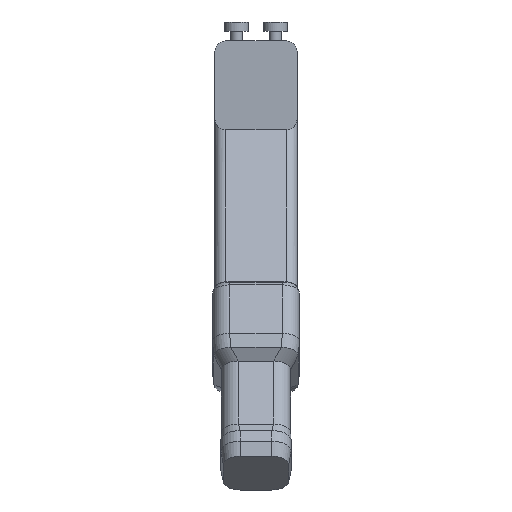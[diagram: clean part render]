
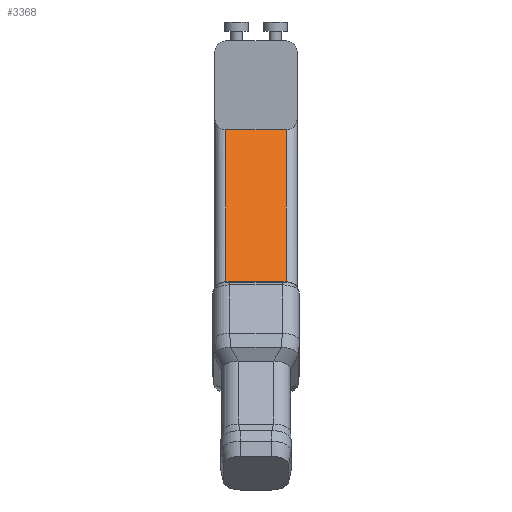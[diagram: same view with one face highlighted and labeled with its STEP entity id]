
A CAD part, left-side view. The second image highlights one B-rep face of the part: STEP entity #3368.
In plain terms, the highlighted planar face has unit normal (-0.867, 0, 0.499).
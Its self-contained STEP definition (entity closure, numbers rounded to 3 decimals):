
#477 = CYLINDRICAL_SURFACE('',#478,4.5);
#478 = AXIS2_PLACEMENT_3D('',#479,#480,#481);
#479 = CARTESIAN_POINT('',(-134.4,-12.45,-15.));
#480 = DIRECTION('',(1.,0.,0.));
#481 = DIRECTION('',(0.,-1.,0.));
#505 = PLANE('',#506);
#506 = AXIS2_PLACEMENT_3D('',#507,#508,#509);
#507 = CARTESIAN_POINT('',(-134.4,-16.95,-19.5));
#508 = DIRECTION('',(0.,0.,1.));
#509 = DIRECTION('',(1.,0.,0.));
#538 = CYLINDRICAL_SURFACE('',#539,4.5);
#539 = AXIS2_PLACEMENT_3D('',#540,#541,#542);
#540 = CARTESIAN_POINT('',(-134.4,12.45,-15.));
#541 = DIRECTION('',(1.,0.,0.));
#542 = DIRECTION('',(-0.,1.,0.));
#1155 = CYLINDRICAL_SURFACE('',#1156,4.5);
#1156 = AXIS2_PLACEMENT_3D('',#1157,#1158,#1159);
#1157 = CARTESIAN_POINT('',(-67.456,-12.5,4.566));
#1158 = DIRECTION('',(-0.499,0.,-0.867));
#1159 = DIRECTION('',(-0.,-1.,0.));
#1309 = VERTEX_POINT('',#1310);
#1310 = CARTESIAN_POINT('',(-86.492,-12.45,-19.5));
#1331 = EDGE_CURVE('',#1332,#1309,#1334,.T.);
#1332 = VERTEX_POINT('',#1333);
#1333 = CARTESIAN_POINT('',(-86.492,-12.5,-19.5));
#1334 = SURFACE_CURVE('',#1335,(#1340,#1351),.PCURVE_S1.);
#1335 = ELLIPSE('',#1336,5.191,4.5);
#1336 = AXIS2_PLACEMENT_3D('',#1337,#1338,#1339);
#1337 = CARTESIAN_POINT('',(-83.903,-12.45,-15.));
#1338 = DIRECTION('',(0.867,0.,-0.499));
#1339 = DIRECTION('',(0.499,0.,0.867));
#1340 = PCURVE('',#477,#1341);
#1341 = DEFINITIONAL_REPRESENTATION('',(#1342),#1350);
#1342 = B_SPLINE_CURVE_WITH_KNOTS('',6,(#1343,#1344,#1345,#1346,#1347,
    #1348,#1349),.UNSPECIFIED.,.F.,.F.,(7,7),(2.539,
    3.142),.PIECEWISE_BEZIER_KNOTS.);
#1343 = CARTESIAN_POINT('',(0.968,48.364));
#1344 = CARTESIAN_POINT('',(1.069,48.217));
#1345 = CARTESIAN_POINT('',(1.169,48.095));
#1346 = CARTESIAN_POINT('',(1.27,48.002));
#1347 = CARTESIAN_POINT('',(1.37,47.939));
#1348 = CARTESIAN_POINT('',(1.47,47.908));
#1349 = CARTESIAN_POINT('',(1.571,47.908));
#1350 = ( GEOMETRIC_REPRESENTATION_CONTEXT(2) 
PARAMETRIC_REPRESENTATION_CONTEXT() REPRESENTATION_CONTEXT('2D SPACE',''
  ) );
#1351 = PCURVE('',#1352,#1357);
#1352 = PLANE('',#1353);
#1353 = AXIS2_PLACEMENT_3D('',#1354,#1355,#1356);
#1354 = CARTESIAN_POINT('',(-71.357,-17.,6.81));
#1355 = DIRECTION('',(0.867,0.,-0.499));
#1356 = DIRECTION('',(0.,1.,0.));
#1357 = DEFINITIONAL_REPRESENTATION('',(#1358),#1362);
#1358 = ELLIPSE('',#1359,5.191,4.5);
#1359 = AXIS2_PLACEMENT_2D('',#1360,#1361);
#1360 = CARTESIAN_POINT('',(4.55,-25.162));
#1361 = DIRECTION('',(0.,1.));
#1362 = ( GEOMETRIC_REPRESENTATION_CONTEXT(2) 
PARAMETRIC_REPRESENTATION_CONTEXT() REPRESENTATION_CONTEXT('2D SPACE',''
  ) );
#1555 = EDGE_CURVE('',#1309,#1556,#1558,.T.);
#1556 = VERTEX_POINT('',#1557);
#1557 = CARTESIAN_POINT('',(-86.492,12.45,-19.5));
#1558 = SURFACE_CURVE('',#1559,(#1563,#1569),.PCURVE_S1.);
#1559 = LINE('',#1560,#1561);
#1560 = CARTESIAN_POINT('',(-86.492,-16.975,-19.5));
#1561 = VECTOR('',#1562,1.);
#1562 = DIRECTION('',(-0.,1.,0.));
#1563 = PCURVE('',#505,#1564);
#1564 = DEFINITIONAL_REPRESENTATION('',(#1565),#1568);
#1565 = B_SPLINE_CURVE_WITH_KNOTS('',1,(#1566,#1567),.UNSPECIFIED.,.F.,
  .F.,(2,2),(4.525,29.425),.PIECEWISE_BEZIER_KNOTS.);
#1566 = CARTESIAN_POINT('',(47.908,4.5));
#1567 = CARTESIAN_POINT('',(47.908,29.4));
#1568 = ( GEOMETRIC_REPRESENTATION_CONTEXT(2) 
PARAMETRIC_REPRESENTATION_CONTEXT() REPRESENTATION_CONTEXT('2D SPACE',''
  ) );
#1569 = PCURVE('',#1352,#1570);
#1570 = DEFINITIONAL_REPRESENTATION('',(#1571),#1574);
#1571 = B_SPLINE_CURVE_WITH_KNOTS('',1,(#1572,#1573),.UNSPECIFIED.,.F.,
  .F.,(2,2),(4.525,29.425),.PIECEWISE_BEZIER_KNOTS.);
#1572 = CARTESIAN_POINT('',(4.55,-30.353));
#1573 = CARTESIAN_POINT('',(29.45,-30.353));
#1574 = ( GEOMETRIC_REPRESENTATION_CONTEXT(2) 
PARAMETRIC_REPRESENTATION_CONTEXT() REPRESENTATION_CONTEXT('2D SPACE',''
  ) );
#1625 = EDGE_CURVE('',#1556,#1626,#1628,.T.);
#1626 = VERTEX_POINT('',#1627);
#1627 = CARTESIAN_POINT('',(-86.492,12.5,-19.5));
#1628 = SURFACE_CURVE('',#1629,(#1634,#1645),.PCURVE_S1.);
#1629 = ELLIPSE('',#1630,5.191,4.5);
#1630 = AXIS2_PLACEMENT_3D('',#1631,#1632,#1633);
#1631 = CARTESIAN_POINT('',(-83.903,12.45,-15.));
#1632 = DIRECTION('',(0.867,0.,-0.499));
#1633 = DIRECTION('',(0.499,0.,0.867));
#1634 = PCURVE('',#538,#1635);
#1635 = DEFINITIONAL_REPRESENTATION('',(#1636),#1644);
#1636 = B_SPLINE_CURVE_WITH_KNOTS('',6,(#1637,#1638,#1639,#1640,#1641,
    #1642,#1643),.UNSPECIFIED.,.F.,.F.,(7,7),(3.142,
    3.744),.PIECEWISE_BEZIER_KNOTS.);
#1637 = CARTESIAN_POINT('',(-1.571,47.908));
#1638 = CARTESIAN_POINT('',(-1.47,47.908));
#1639 = CARTESIAN_POINT('',(-1.37,47.939));
#1640 = CARTESIAN_POINT('',(-1.27,48.002));
#1641 = CARTESIAN_POINT('',(-1.169,48.095));
#1642 = CARTESIAN_POINT('',(-1.069,48.217));
#1643 = CARTESIAN_POINT('',(-0.968,48.364));
#1644 = ( GEOMETRIC_REPRESENTATION_CONTEXT(2) 
PARAMETRIC_REPRESENTATION_CONTEXT() REPRESENTATION_CONTEXT('2D SPACE',''
  ) );
#1645 = PCURVE('',#1352,#1646);
#1646 = DEFINITIONAL_REPRESENTATION('',(#1647),#1651);
#1647 = ELLIPSE('',#1648,5.191,4.5);
#1648 = AXIS2_PLACEMENT_2D('',#1649,#1650);
#1649 = CARTESIAN_POINT('',(29.45,-25.162));
#1650 = DIRECTION('',(0.,1.));
#1651 = ( GEOMETRIC_REPRESENTATION_CONTEXT(2) 
PARAMETRIC_REPRESENTATION_CONTEXT() REPRESENTATION_CONTEXT('2D SPACE',''
  ) );
#1777 = CYLINDRICAL_SURFACE('',#1778,4.5);
#1778 = AXIS2_PLACEMENT_3D('',#1779,#1780,#1781);
#1779 = CARTESIAN_POINT('',(-67.456,12.5,4.566));
#1780 = DIRECTION('',(-0.499,0.,-0.867));
#1781 = DIRECTION('',(-0.867,0.,0.499));
#2758 = PLANE('',#2759);
#2759 = AXIS2_PLACEMENT_3D('',#2760,#2761,#2762);
#2760 = CARTESIAN_POINT('',(-106.247,0.,-91.945));
#2761 = DIRECTION('',(-0.499,0.,-0.867));
#2762 = DIRECTION('',(-0.867,0.,0.499));
#2998 = EDGE_CURVE('',#1332,#2999,#3001,.T.);
#2999 = VERTEX_POINT('',#3000);
#3000 = CARTESIAN_POINT('',(-122.716,-12.5,-82.471));
#3001 = SURFACE_CURVE('',#3002,(#3006,#3013),.PCURVE_S1.);
#3002 = LINE('',#3003,#3004);
#3003 = CARTESIAN_POINT('',(-71.357,-12.5,6.81));
#3004 = VECTOR('',#3005,1.);
#3005 = DIRECTION('',(-0.499,0.,-0.867));
#3006 = PCURVE('',#1155,#3007);
#3007 = DEFINITIONAL_REPRESENTATION('',(#3008),#3012);
#3008 = LINE('',#3009,#3010);
#3009 = CARTESIAN_POINT('',(1.571,0.));
#3010 = VECTOR('',#3011,1.);
#3011 = DIRECTION('',(0.,1.));
#3012 = ( GEOMETRIC_REPRESENTATION_CONTEXT(2) 
PARAMETRIC_REPRESENTATION_CONTEXT() REPRESENTATION_CONTEXT('2D SPACE',''
  ) );
#3013 = PCURVE('',#1352,#3014);
#3014 = DEFINITIONAL_REPRESENTATION('',(#3015),#3019);
#3015 = LINE('',#3016,#3017);
#3016 = CARTESIAN_POINT('',(4.5,0.));
#3017 = VECTOR('',#3018,1.);
#3018 = DIRECTION('',(0.,-1.));
#3019 = ( GEOMETRIC_REPRESENTATION_CONTEXT(2) 
PARAMETRIC_REPRESENTATION_CONTEXT() REPRESENTATION_CONTEXT('2D SPACE',''
  ) );
#3368 = ADVANCED_FACE('',(#3369),#1352,.F.);
#3369 = FACE_BOUND('',#3370,.F.);
#3370 = EDGE_LOOP('',(#3371,#3372,#3373,#3396,#3417,#3418));
#3371 = ORIENTED_EDGE('',*,*,#1331,.F.);
#3372 = ORIENTED_EDGE('',*,*,#2998,.T.);
#3373 = ORIENTED_EDGE('',*,*,#3374,.T.);
#3374 = EDGE_CURVE('',#2999,#3375,#3377,.T.);
#3375 = VERTEX_POINT('',#3376);
#3376 = CARTESIAN_POINT('',(-122.716,12.5,-82.471));
#3377 = SURFACE_CURVE('',#3378,(#3382,#3389),.PCURVE_S1.);
#3378 = LINE('',#3379,#3380);
#3379 = CARTESIAN_POINT('',(-122.716,-17.,-82.471));
#3380 = VECTOR('',#3381,1.);
#3381 = DIRECTION('',(0.,1.,0.));
#3382 = PCURVE('',#1352,#3383);
#3383 = DEFINITIONAL_REPRESENTATION('',(#3384),#3388);
#3384 = LINE('',#3385,#3386);
#3385 = CARTESIAN_POINT('',(0.,-103.));
#3386 = VECTOR('',#3387,1.);
#3387 = DIRECTION('',(1.,0.));
#3388 = ( GEOMETRIC_REPRESENTATION_CONTEXT(2) 
PARAMETRIC_REPRESENTATION_CONTEXT() REPRESENTATION_CONTEXT('2D SPACE',''
  ) );
#3389 = PCURVE('',#2758,#3390);
#3390 = DEFINITIONAL_REPRESENTATION('',(#3391),#3395);
#3391 = LINE('',#3392,#3393);
#3392 = CARTESIAN_POINT('',(19.,-17.));
#3393 = VECTOR('',#3394,1.);
#3394 = DIRECTION('',(0.,1.));
#3395 = ( GEOMETRIC_REPRESENTATION_CONTEXT(2) 
PARAMETRIC_REPRESENTATION_CONTEXT() REPRESENTATION_CONTEXT('2D SPACE',''
  ) );
#3396 = ORIENTED_EDGE('',*,*,#3397,.F.);
#3397 = EDGE_CURVE('',#1626,#3375,#3398,.T.);
#3398 = SURFACE_CURVE('',#3399,(#3403,#3410),.PCURVE_S1.);
#3399 = LINE('',#3400,#3401);
#3400 = CARTESIAN_POINT('',(-71.357,12.5,6.81));
#3401 = VECTOR('',#3402,1.);
#3402 = DIRECTION('',(-0.499,0.,-0.867));
#3403 = PCURVE('',#1352,#3404);
#3404 = DEFINITIONAL_REPRESENTATION('',(#3405),#3409);
#3405 = LINE('',#3406,#3407);
#3406 = CARTESIAN_POINT('',(29.5,0.));
#3407 = VECTOR('',#3408,1.);
#3408 = DIRECTION('',(0.,-1.));
#3409 = ( GEOMETRIC_REPRESENTATION_CONTEXT(2) 
PARAMETRIC_REPRESENTATION_CONTEXT() REPRESENTATION_CONTEXT('2D SPACE',''
  ) );
#3410 = PCURVE('',#1777,#3411);
#3411 = DEFINITIONAL_REPRESENTATION('',(#3412),#3416);
#3412 = LINE('',#3413,#3414);
#3413 = CARTESIAN_POINT('',(0.,0.));
#3414 = VECTOR('',#3415,1.);
#3415 = DIRECTION('',(0.,1.));
#3416 = ( GEOMETRIC_REPRESENTATION_CONTEXT(2) 
PARAMETRIC_REPRESENTATION_CONTEXT() REPRESENTATION_CONTEXT('2D SPACE',''
  ) );
#3417 = ORIENTED_EDGE('',*,*,#1625,.F.);
#3418 = ORIENTED_EDGE('',*,*,#1555,.F.);
